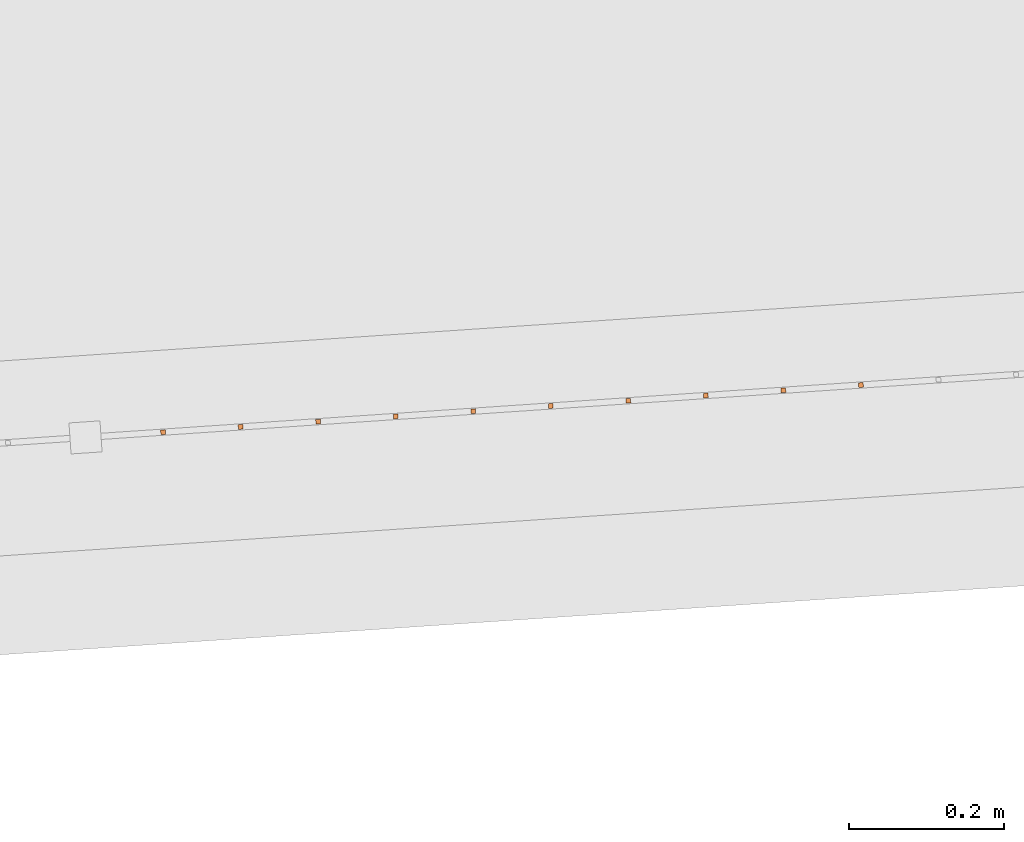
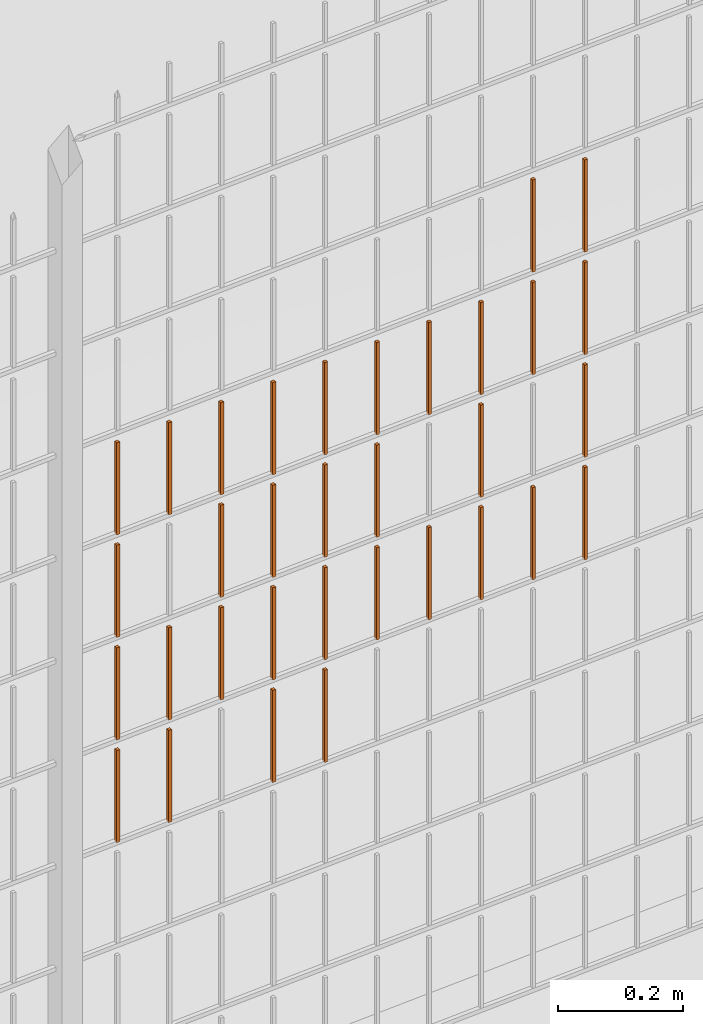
# One storey, part 338 of 1809: 33 proxies, 1 element without a shape of its own.
"""IFC2X3 building model written with IfcOpenShell, lengths in millimetres."""

from ifc_helpers import new_model, entity, si_unit, converted_unit, derived_unit, money_unit, direction, frame, origin_with_axes, place, context, subcontext, project, spatial, faceted_brep, source, transform, mapped, material, type_object, element, aggregate, save


model = new_model("IFC2X3")

# Units and contexts
model_context = context("Model", 3, precision=0.01, world=origin_with_axes(), true_north=direction((0.0, 1.0)))
body_context = subcontext(model_context, "Body", "Model", "MODEL_VIEW")
ifc_project = project(units=[si_unit("LENGTHUNIT", "METRE", prefix="MILLI"), si_unit("AREAUNIT", "SQUARE_METRE"), si_unit("VOLUMEUNIT", "CUBIC_METRE"), converted_unit("PLANEANGLEUNIT", "DEGREE", entity("IfcPlaneAngleMeasure", 0.0174532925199), si_unit("PLANEANGLEUNIT", "RADIAN"), dimensions=[0, 0, 0, 0, 0, 0, 0]), si_unit("SOLIDANGLEUNIT", "STERADIAN"), money_unit("EUR"), converted_unit("TIMEUNIT", "Year", entity("IfcTimeMeasure", 31556926.0), si_unit("TIMEUNIT", "SECOND"), dimensions=[0, 0, 1, 0, 0, 0, 0]), si_unit("MASSUNIT", "GRAM", prefix="KILO"), si_unit("THERMODYNAMICTEMPERATUREUNIT", "DEGREE_CELSIUS"), si_unit("LUMINOUSINTENSITYUNIT", "LUMEN"), si_unit("ENERGYUNIT", "JOULE", prefix="MEGA"), derived_unit("THERMALCONDUCTANCEUNIT", [(si_unit("POWERUNIT", "WATT"), 1), (si_unit("LENGTHUNIT", "METRE"), -1), (si_unit("THERMODYNAMICTEMPERATUREUNIT", "KELVIN"), -1)]), derived_unit("SPECIFICHEATCAPACITYUNIT", [(si_unit("ENERGYUNIT", "JOULE"), 1), (si_unit("MASSUNIT", "GRAM", prefix="KILO"), -1), (si_unit("THERMODYNAMICTEMPERATUREUNIT", "KELVIN"), -1)]), derived_unit("MASSDENSITYUNIT", [(si_unit("MASSUNIT", "GRAM", prefix="KILO"), 1), (si_unit("VOLUMEUNIT", "CUBIC_METRE"), -1)])], contexts=[model_context])

# Site, building, storey
site_placement = place(None, origin_with_axes())
site = spatial("IfcSite", under=ifc_project, at=site_placement, Name="Politse- ja Piirivalveameti ning Päästeameti ühishoone", CompositionType="ELEMENT")
building_placement = place(site_placement, origin_with_axes())
building = spatial("IfcBuilding", under=site, at=building_placement, Name="Politse- ja Piirivalveameti ning Päästeameti ühishoone", CompositionType="ELEMENT")
storey_placement = place(building_placement, origin_with_axes())
storey = spatial("IfcBuildingStorey", under=building, at=storey_placement, Name="Esimene korrus", CompositionType="ELEMENT", Elevation=0.0)

# Proxies
building_element_proxy_type_1 = type_object("IfcBuildingElementProxyType", Name="Railing Type", PredefinedType="NOTDEFINED")
proxy_1_placement = place(storey_placement, frame((89252.001212, -29183.4766571, 203.661247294), z_axis=(0.0, 0.0, 1.0), x_axis=(1.0, 0.0, 0.0)))
proxy_1 = element("IfcBuildingElementProxy", 1, at=proxy_1_placement, inside=storey, type_object=building_element_proxy_type_1, Name="PIIRDEAED")
ifc_material = material(Name="ET-03_Raud")
building_element_proxy_type_2 = type_object("IfcBuildingElementProxyType", Name="IfcBuildingElementProxy", PredefinedType="NOTDEFINED")
shared_shape_1 = source(origin_with_axes(), body_context, "Body", "Brep", [
    faceted_brep([(3.0, 3.0, -0.000752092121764), (-3.0, 3.0, -0.000752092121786), (-3.0, 3.0, 179.99926046), (3.0, 3.0, 179.99926046), (3.0, -3.0, 0.000752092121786), (-3.0, -3.0, 0.000752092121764), (-3.0, -3.0, 180.000764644), (3.0, -3.0, 180.000764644)], [[[0, 1, 2, 3]], [[0, 4, 5, 1]], [[1, 5, 6, 2]], [[3, 2, 6, 7]], [[4, 0, 3, 7]], [[5, 4, 7, 6]]]),
])
proxy_2_placement = place(proxy_1_placement, frame((-31355.2403445, -19415.7029165, 1419.35579737), z_axis=(0.0, 0.0, 1.0), x_axis=(1.0, 0.0, 0.0)))
proxy_2 = element("IfcBuildingElementProxy", 2, at=proxy_2_placement, type_object=building_element_proxy_type_2, material=ifc_material, Name="BALUSTER - 001", context=body_context, shape_type="MappedRepresentation", body=[
    mapped(shared_shape_1, transform((0.0, 0.0, 0.0), x_axis=(-0.0673926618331, 0.997726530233, 0.0), y_axis=(-0.997726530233, -0.0673926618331, 0.0), z_axis=(0.0, 0.0, 1.0))),
])
shared_shape_2 = source(origin_with_axes(), body_context, "Body", "Brep", [
    faceted_brep([(3.0, 3.0, -0.000752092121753), (-3.0, 3.0, -0.000752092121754), (-3.0, 3.0, 179.99926046), (3.0, 3.0, 179.99926046), (3.0, -3.0, 0.000752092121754), (-3.0, -3.0, 0.000752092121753), (-3.0, -3.0, 180.000764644), (3.0, -3.0, 180.000764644)], [[[0, 1, 2, 3]], [[0, 4, 5, 1]], [[1, 5, 6, 2]], [[3, 2, 6, 7]], [[4, 0, 3, 7]], [[5, 4, 7, 6]]]),
])
proxy_3_placement = place(proxy_1_placement, frame((-32153.4215687, -19469.6170459, 1219.15523947), z_axis=(0.0, 0.0, 1.0), x_axis=(1.0, 0.0, 0.0)))
proxy_3 = element("IfcBuildingElementProxy", 3, at=proxy_3_placement, type_object=building_element_proxy_type_2, material=ifc_material, Name="BALUSTER - 001", context=body_context, shape_type="MappedRepresentation", body=[
    mapped(shared_shape_2, transform((0.0, 0.0, 0.0), x_axis=(-0.0673926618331, 0.997726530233, 0.0), y_axis=(-0.997726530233, -0.0673926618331, 0.0), z_axis=(0.0, 0.0, 1.0))),
])
shared_shape_3 = source(origin_with_axes(), body_context, "Body", "Brep", [
    faceted_brep([(3.0, 3.0, -0.000752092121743), (-3.0, 3.0, -0.000752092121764), (-3.0, 3.0, 179.99926046), (3.0, 3.0, 179.99926046), (3.0, -3.0, 0.000752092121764), (-3.0, -3.0, 0.000752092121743), (-3.0, -3.0, 180.000764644), (3.0, -3.0, 180.000764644)], [[[0, 1, 2, 3]], [[0, 4, 5, 1]], [[1, 5, 6, 2]], [[3, 2, 6, 7]], [[4, 0, 3, 7]], [[5, 4, 7, 6]]]),
])
proxy_4_placement = place(proxy_1_placement, frame((-31754.3309566, -19442.6599812, 819.255518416), z_axis=(0.0, 0.0, 1.0), x_axis=(1.0, 0.0, 0.0)))
proxy_4 = element("IfcBuildingElementProxy", 4, at=proxy_4_placement, type_object=building_element_proxy_type_2, material=ifc_material, Name="BALUSTER - 001", context=body_context, shape_type="MappedRepresentation", body=[
    mapped(shared_shape_3, transform((0.0, 0.0, 0.0), x_axis=(-0.0673926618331, 0.997726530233, 0.0), y_axis=(-0.997726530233, -0.0673926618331, 0.0), z_axis=(0.0, 0.0, 1.0))),
])
shared_shape_4 = source(origin_with_axes(), body_context, "Body", "Brep", [
    faceted_brep([(3.0, 3.0, -0.000752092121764), (-3.0, 3.0, -0.000752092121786), (-3.0, 3.0, 179.99926046), (3.0, 3.0, 179.99926046), (3.0, -3.0, 0.000752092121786), (-3.0, -3.0, 0.000752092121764), (-3.0, -3.0, 180.000764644), (3.0, -3.0, 180.000764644)], [[[0, 1, 2, 3]], [[0, 4, 5, 1]], [[1, 5, 6, 2]], [[3, 2, 6, 7]], [[4, 0, 3, 7]], [[5, 4, 7, 6]]]),
])
proxy_5_placement = place(proxy_1_placement, frame((-31355.2403445, -19415.7029165, 1219.35579737), z_axis=(0.0, 0.0, 1.0), x_axis=(1.0, 0.0, 0.0)))
proxy_5 = element("IfcBuildingElementProxy", 5, at=proxy_5_placement, type_object=building_element_proxy_type_2, material=ifc_material, Name="BALUSTER - 001", context=body_context, shape_type="MappedRepresentation", body=[
    mapped(shared_shape_4, transform((0.0, 0.0, 0.0), x_axis=(-0.0673926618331, 0.997726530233, 0.0), y_axis=(-0.997726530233, -0.0673926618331, 0.0), z_axis=(0.0, 0.0, 1.0))),
])
shared_shape_5 = source(origin_with_axes(), body_context, "Body", "Brep", [
    faceted_brep([(3.0, 3.0, -0.000752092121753), (-3.0, 3.0, -0.000752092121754), (-3.0, 3.0, 179.99926046), (3.0, 3.0, 179.99926046), (3.0, -3.0, 0.000752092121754), (-3.0, -3.0, 0.000752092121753), (-3.0, -3.0, 180.000764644), (3.0, -3.0, 180.000764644)], [[[0, 1, 2, 3]], [[0, 4, 5, 1]], [[1, 5, 6, 2]], [[3, 2, 6, 7]], [[4, 0, 3, 7]], [[5, 4, 7, 6]]]),
])
proxy_6_placement = place(proxy_1_placement, frame((-31654.5583036, -19435.920715, 819.280588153), z_axis=(0.0, 0.0, 1.0), x_axis=(1.0, 0.0, 0.0)))
proxy_6 = element("IfcBuildingElementProxy", 6, at=proxy_6_placement, type_object=building_element_proxy_type_2, material=ifc_material, Name="BALUSTER - 001", context=body_context, shape_type="MappedRepresentation", body=[
    mapped(shared_shape_5, transform((0.0, 0.0, 0.0), x_axis=(-0.0673926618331, 0.997726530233, 0.0), y_axis=(-0.997726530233, -0.0673926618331, 0.0), z_axis=(0.0, 0.0, 1.0))),
])
shared_shape_6 = source(origin_with_axes(), body_context, "Body", "Brep", [
    faceted_brep([(3.0, 3.0, -0.000752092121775), (-3.0, 3.0, -0.000752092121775), (-3.0, 3.0, 179.99926046), (3.0, 3.0, 179.99926046), (3.0, -3.0, 0.000752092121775), (-3.0, -3.0, 0.000752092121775), (-3.0, -3.0, 180.000764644), (3.0, -3.0, 180.000764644)], [[[0, 1, 2, 3]], [[0, 4, 5, 1]], [[1, 5, 6, 2]], [[3, 2, 6, 7]], [[4, 0, 3, 7]], [[5, 4, 7, 6]]]),
])
proxy_7_placement = place(proxy_1_placement, frame((-31255.4676915, -19408.9636503, 1219.3808671), z_axis=(0.0, 0.0, 1.0), x_axis=(1.0, 0.0, 0.0)))
proxy_7 = element("IfcBuildingElementProxy", 7, at=proxy_7_placement, type_object=building_element_proxy_type_2, material=ifc_material, Name="BALUSTER - 001", context=body_context, shape_type="MappedRepresentation", body=[
    mapped(shared_shape_6, transform((0.0, 0.0, 0.0), x_axis=(-0.0673926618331, 0.997726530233, 0.0), y_axis=(-0.997726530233, -0.0673926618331, 0.0), z_axis=(0.0, 0.0, 1.0))),
])
shared_shape_7 = source(origin_with_axes(), body_context, "Body", "Brep", [
    faceted_brep([(3.0, 3.0, -0.000752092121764), (-3.0, 3.0, -0.000752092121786), (-3.0, 3.0, 179.99926046), (3.0, 3.0, 179.99926046), (3.0, -3.0, 0.000752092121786), (-3.0, -3.0, 0.000752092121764), (-3.0, -3.0, 180.000764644), (3.0, -3.0, 180.000764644)], [[[0, 1, 2, 3]], [[0, 4, 5, 1]], [[1, 5, 6, 2]], [[3, 2, 6, 7]], [[4, 0, 3, 7]], [[5, 4, 7, 6]]]),
])
proxy_8_placement = place(proxy_1_placement, frame((-31255.4676915, -19408.9636503, 819.380867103), z_axis=(0.0, 0.0, 1.0), x_axis=(1.0, 0.0, 0.0)))
proxy_8 = element("IfcBuildingElementProxy", 8, at=proxy_8_placement, type_object=building_element_proxy_type_2, material=ifc_material, Name="BALUSTER - 001", context=body_context, shape_type="MappedRepresentation", body=[
    mapped(shared_shape_7, transform((0.0, 0.0, 0.0), x_axis=(-0.0673926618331, 0.997726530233, 0.0), y_axis=(-0.997726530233, -0.0673926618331, 0.0), z_axis=(0.0, 0.0, 1.0))),
])
shared_shape_8 = source(origin_with_axes(), body_context, "Body", "Brep", [
    faceted_brep([(3.0, 3.0, -0.000752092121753), (-3.0, 3.0, -0.000752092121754), (-3.0, 3.0, 179.99926046), (3.0, 3.0, 179.99926046), (3.0, -3.0, 0.000752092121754), (-3.0, -3.0, 0.000752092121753), (-3.0, -3.0, 180.000764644), (3.0, -3.0, 180.000764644)], [[[0, 1, 2, 3]], [[0, 4, 5, 1]], [[1, 5, 6, 2]], [[3, 2, 6, 7]], [[4, 0, 3, 7]], [[5, 4, 7, 6]]]),
])
proxy_9_placement = place(proxy_1_placement, frame((-31554.7856505, -19429.1814488, 819.30565789), z_axis=(0.0, 0.0, 1.0), x_axis=(1.0, 0.0, 0.0)))
proxy_9 = element("IfcBuildingElementProxy", 9, at=proxy_9_placement, type_object=building_element_proxy_type_2, material=ifc_material, Name="BALUSTER - 001", context=body_context, shape_type="MappedRepresentation", body=[
    mapped(shared_shape_8, transform((0.0, 0.0, 0.0), x_axis=(-0.0673926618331, 0.997726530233, 0.0), y_axis=(-0.997726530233, -0.0673926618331, 0.0), z_axis=(0.0, 0.0, 1.0))),
])
proxy_10_placement = place(proxy_1_placement, frame((-31455.0129975, -19422.4421827, 1219.33072763), z_axis=(0.0, 0.0, 1.0), x_axis=(1.0, 0.0, 0.0)))
proxy_10 = element("IfcBuildingElementProxy", 10, at=proxy_10_placement, type_object=building_element_proxy_type_2, material=ifc_material, Name="BALUSTER - 001", context=body_context, shape_type="MappedRepresentation", body=[
    mapped(shared_shape_8, transform((0.0, 0.0, 0.0), x_axis=(-0.0673926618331, 0.997726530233, 0.0), y_axis=(-0.997726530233, -0.0673926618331, 0.0), z_axis=(0.0, 0.0, 1.0))),
])
shared_shape_9 = source(origin_with_axes(), body_context, "Body", "Brep", [
    faceted_brep([(3.0, 3.0, -0.000752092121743), (-3.0, 3.0, -0.000752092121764), (-3.0, 3.0, 179.99926046), (3.0, 3.0, 179.99926046), (3.0, -3.0, 0.000752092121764), (-3.0, -3.0, 0.000752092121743), (-3.0, -3.0, 180.000764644), (3.0, -3.0, 180.000764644)], [[[0, 1, 2, 3]], [[0, 4, 5, 1]], [[1, 5, 6, 2]], [[3, 2, 6, 7]], [[4, 0, 3, 7]], [[5, 4, 7, 6]]]),
])
proxy_11_placement = place(proxy_1_placement, frame((-31754.3309566, -19442.6599812, 619.255518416), z_axis=(0.0, 0.0, 1.0), x_axis=(1.0, 0.0, 0.0)))
proxy_11 = element("IfcBuildingElementProxy", 11, at=proxy_11_placement, type_object=building_element_proxy_type_2, material=ifc_material, Name="BALUSTER - 001", context=body_context, shape_type="MappedRepresentation", body=[
    mapped(shared_shape_9, transform((0.0, 0.0, 0.0), x_axis=(-0.0673926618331, 0.997726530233, 0.0), y_axis=(-0.997726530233, -0.0673926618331, 0.0), z_axis=(0.0, 0.0, 1.0))),
])
proxy_12_placement = place(proxy_1_placement, frame((-31554.7856505, -19429.1814488, 1219.30565789), z_axis=(0.0, 0.0, 1.0), x_axis=(1.0, 0.0, 0.0)))
proxy_12 = element("IfcBuildingElementProxy", 12, at=proxy_12_placement, type_object=building_element_proxy_type_2, material=ifc_material, Name="BALUSTER - 001", context=body_context, shape_type="MappedRepresentation", body=[
    mapped(shared_shape_9, transform((0.0, 0.0, 0.0), x_axis=(-0.0673926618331, 0.997726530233, 0.0), y_axis=(-0.997726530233, -0.0673926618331, 0.0), z_axis=(0.0, 0.0, 1.0))),
])
shared_shape_10 = source(origin_with_axes(), body_context, "Body", "Brep", [
    faceted_brep([(3.0, 3.0, -0.000752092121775), (-3.0, 3.0, -0.000752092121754), (-3.0, 3.0, 179.99926046), (3.0, 3.0, 179.99926046), (3.0, -3.0, 0.000752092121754), (-3.0, -3.0, 0.000752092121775), (-3.0, -3.0, 180.000764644), (3.0, -3.0, 180.000764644)], [[[0, 1, 2, 3]], [[0, 4, 5, 1]], [[1, 5, 6, 2]], [[3, 2, 6, 7]], [[4, 0, 3, 7]], [[5, 4, 7, 6]]]),
])
proxy_13_placement = place(proxy_1_placement, frame((-31754.3309566, -19442.6599812, 1219.25551842), z_axis=(0.0, 0.0, 1.0), x_axis=(1.0, 0.0, 0.0)))
proxy_13 = element("IfcBuildingElementProxy", 13, at=proxy_13_placement, type_object=building_element_proxy_type_2, material=ifc_material, Name="BALUSTER - 001", context=body_context, shape_type="MappedRepresentation", body=[
    mapped(shared_shape_10, transform((0.0, 0.0, 0.0), x_axis=(-0.0673926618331, 0.997726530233, 0.0), y_axis=(-0.997726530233, -0.0673926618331, 0.0), z_axis=(0.0, 0.0, 1.0))),
])
shared_shape_11 = source(origin_with_axes(), body_context, "Body", "Brep", [
    faceted_brep([(3.0, 3.0, -0.000752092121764), (-3.0, 3.0, -0.000752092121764), (-3.0, 3.0, 179.99926046), (3.0, 3.0, 179.99926046), (3.0, -3.0, 0.000752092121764), (-3.0, -3.0, 0.000752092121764), (-3.0, -3.0, 180.000764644), (3.0, -3.0, 180.000764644)], [[[0, 1, 2, 3]], [[0, 4, 5, 1]], [[1, 5, 6, 2]], [[3, 2, 6, 7]], [[4, 0, 3, 7]], [[5, 4, 7, 6]]]),
])
proxy_14_placement = place(proxy_1_placement, frame((-31854.1036096, -19449.3992474, 819.230448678), z_axis=(0.0, 0.0, 1.0), x_axis=(1.0, 0.0, 0.0)))
proxy_14 = element("IfcBuildingElementProxy", 14, at=proxy_14_placement, type_object=building_element_proxy_type_2, material=ifc_material, Name="BALUSTER - 001", context=body_context, shape_type="MappedRepresentation", body=[
    mapped(shared_shape_11, transform((0.0, 0.0, 0.0), x_axis=(-0.0673926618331, 0.997726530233, 0.0), y_axis=(-0.997726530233, -0.0673926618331, 0.0), z_axis=(0.0, 0.0, 1.0))),
])
shared_shape_12 = source(origin_with_axes(), body_context, "Body", "Brep", [
    faceted_brep([(3.0, 3.0, -0.000752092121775), (-3.0, 3.0, -0.000752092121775), (-3.0, 3.0, 179.99926046), (3.0, 3.0, 179.99926046), (3.0, -3.0, 0.000752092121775), (-3.0, -3.0, 0.000752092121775), (-3.0, -3.0, 180.000764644), (3.0, -3.0, 180.000764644)], [[[0, 1, 2, 3]], [[0, 4, 5, 1]], [[1, 5, 6, 2]], [[3, 2, 6, 7]], [[4, 0, 3, 7]], [[5, 4, 7, 6]]]),
])
proxy_15_placement = place(proxy_1_placement, frame((-31255.4676915, -19408.9636503, 1419.3808671), z_axis=(0.0, 0.0, 1.0), x_axis=(1.0, 0.0, 0.0)))
proxy_15 = element("IfcBuildingElementProxy", 15, at=proxy_15_placement, type_object=building_element_proxy_type_2, material=ifc_material, Name="BALUSTER - 001", context=body_context, shape_type="MappedRepresentation", body=[
    mapped(shared_shape_12, transform((0.0, 0.0, 0.0), x_axis=(-0.0673926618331, 0.997726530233, 0.0), y_axis=(-0.997726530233, -0.0673926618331, 0.0), z_axis=(0.0, 0.0, 1.0))),
])
shared_shape_13 = source(origin_with_axes(), body_context, "Body", "Brep", [
    faceted_brep([(3.0, 3.0, -0.000752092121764), (-3.0, 3.0, -0.000752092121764), (-3.0, 3.0, 179.99926046), (3.0, 3.0, 179.99926046), (3.0, -3.0, 0.000752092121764), (-3.0, -3.0, 0.000752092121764), (-3.0, -3.0, 180.000764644), (3.0, -3.0, 180.000764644)], [[[0, 1, 2, 3]], [[0, 4, 5, 1]], [[1, 5, 6, 2]], [[3, 2, 6, 7]], [[4, 0, 3, 7]], [[5, 4, 7, 6]]]),
])
proxy_16_placement = place(proxy_1_placement, frame((-31854.1036096, -19449.3992474, 619.230448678), z_axis=(0.0, 0.0, 1.0), x_axis=(1.0, 0.0, 0.0)))
proxy_16 = element("IfcBuildingElementProxy", 16, at=proxy_16_placement, type_object=building_element_proxy_type_2, material=ifc_material, Name="BALUSTER - 001", context=body_context, shape_type="MappedRepresentation", body=[
    mapped(shared_shape_13, transform((0.0, 0.0, 0.0), x_axis=(-0.0673926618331, 0.997726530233, 0.0), y_axis=(-0.997726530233, -0.0673926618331, 0.0), z_axis=(0.0, 0.0, 1.0))),
])
shared_shape_14 = source(origin_with_axes(), body_context, "Body", "Brep", [
    faceted_brep([(3.0, 3.0, -0.000752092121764), (-3.0, 3.0, -0.000752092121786), (-3.0, 3.0, 179.99926046), (3.0, 3.0, 179.99926046), (3.0, -3.0, 0.000752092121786), (-3.0, -3.0, 0.000752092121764), (-3.0, -3.0, 180.000764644), (3.0, -3.0, 180.000764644)], [[[0, 1, 2, 3]], [[0, 4, 5, 1]], [[1, 5, 6, 2]], [[3, 2, 6, 7]], [[4, 0, 3, 7]], [[5, 4, 7, 6]]]),
])
proxy_17_placement = place(proxy_1_placement, frame((-32153.4215687, -19469.6170459, 619.155239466), z_axis=(0.0, 0.0, 1.0), x_axis=(1.0, 0.0, 0.0)))
proxy_17 = element("IfcBuildingElementProxy", 17, at=proxy_17_placement, type_object=building_element_proxy_type_2, material=ifc_material, Name="BALUSTER - 001", context=body_context, shape_type="MappedRepresentation", body=[
    mapped(shared_shape_14, transform((0.0, 0.0, 0.0), x_axis=(-0.0673926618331, 0.997726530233, 0.0), y_axis=(-0.997726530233, -0.0673926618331, 0.0), z_axis=(0.0, 0.0, 1.0))),
])
shared_shape_15 = source(origin_with_axes(), body_context, "Body", "Brep", [
    faceted_brep([(3.0, 3.0, -0.000752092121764), (-3.0, 3.0, -0.000752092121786), (-3.0, 3.0, 179.99926046), (3.0, 3.0, 179.99926046), (3.0, -3.0, 0.000752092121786), (-3.0, -3.0, 0.000752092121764), (-3.0, -3.0, 180.000764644), (3.0, -3.0, 180.000764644)], [[[0, 1, 2, 3]], [[0, 4, 5, 1]], [[1, 5, 6, 2]], [[3, 2, 6, 7]], [[4, 0, 3, 7]], [[5, 4, 7, 6]]]),
])
proxy_18_placement = place(proxy_1_placement, frame((-32053.6489157, -19462.8777798, 1219.1803092), z_axis=(0.0, 0.0, 1.0), x_axis=(1.0, 0.0, 0.0)))
proxy_18 = element("IfcBuildingElementProxy", 18, at=proxy_18_placement, type_object=building_element_proxy_type_2, material=ifc_material, Name="BALUSTER - 001", context=body_context, shape_type="MappedRepresentation", body=[
    mapped(shared_shape_15, transform((0.0, 0.0, 0.0), x_axis=(-0.0673926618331, 0.997726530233, 0.0), y_axis=(-0.997726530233, -0.0673926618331, 0.0), z_axis=(0.0, 0.0, 1.0))),
])
shared_shape_16 = source(origin_with_axes(), body_context, "Body", "Brep", [
    faceted_brep([(3.0, 3.0, -0.000752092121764), (-3.0, 3.0, -0.000752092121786), (-3.0, 3.0, 179.99926046), (3.0, 3.0, 179.99926046), (3.0, -3.0, 0.000752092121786), (-3.0, -3.0, 0.000752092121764), (-3.0, -3.0, 180.000764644), (3.0, -3.0, 180.000764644)], [[[0, 1, 2, 3]], [[0, 4, 5, 1]], [[1, 5, 6, 2]], [[3, 2, 6, 7]], [[4, 0, 3, 7]], [[5, 4, 7, 6]]]),
])
proxy_19_placement = place(proxy_1_placement, frame((-32053.6489157, -19462.8777798, 819.180309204), z_axis=(0.0, 0.0, 1.0), x_axis=(1.0, 0.0, 0.0)))
proxy_19 = element("IfcBuildingElementProxy", 19, at=proxy_19_placement, type_object=building_element_proxy_type_2, material=ifc_material, Name="BALUSTER - 001", context=body_context, shape_type="MappedRepresentation", body=[
    mapped(shared_shape_16, transform((0.0, 0.0, 0.0), x_axis=(-0.0673926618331, 0.997726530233, 0.0), y_axis=(-0.997726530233, -0.0673926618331, 0.0), z_axis=(0.0, 0.0, 1.0))),
])
proxy_20_placement = place(proxy_1_placement, frame((-31654.5583036, -19435.920715, 1219.28058815), z_axis=(0.0, 0.0, 1.0), x_axis=(1.0, 0.0, 0.0)))
proxy_20 = element("IfcBuildingElementProxy", 20, at=proxy_20_placement, type_object=building_element_proxy_type_2, material=ifc_material, Name="BALUSTER - 001", context=body_context, shape_type="MappedRepresentation", body=[
    mapped(shared_shape_16, transform((0.0, 0.0, 0.0), x_axis=(-0.0673926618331, 0.997726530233, 0.0), y_axis=(-0.997726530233, -0.0673926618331, 0.0), z_axis=(0.0, 0.0, 1.0))),
])
shared_shape_17 = source(origin_with_axes(), body_context, "Body", "Brep", [
    faceted_brep([(3.0, 3.0, -0.000752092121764), (-3.0, 3.0, -0.000752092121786), (-3.0, 3.0, 179.99926046), (3.0, 3.0, 179.99926046), (3.0, -3.0, 0.000752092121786), (-3.0, -3.0, 0.000752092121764), (-3.0, -3.0, 180.000764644), (3.0, -3.0, 180.000764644)], [[[0, 1, 2, 3]], [[0, 4, 5, 1]], [[1, 5, 6, 2]], [[3, 2, 6, 7]], [[4, 0, 3, 7]], [[5, 4, 7, 6]]]),
])
proxy_21_placement = place(proxy_1_placement, frame((-32053.6489157, -19462.8777798, 619.180309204), z_axis=(0.0, 0.0, 1.0), x_axis=(1.0, 0.0, 0.0)))
proxy_21 = element("IfcBuildingElementProxy", 21, at=proxy_21_placement, type_object=building_element_proxy_type_2, material=ifc_material, Name="BALUSTER - 001", context=body_context, shape_type="MappedRepresentation", body=[
    mapped(shared_shape_17, transform((0.0, 0.0, 0.0), x_axis=(-0.0673926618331, 0.997726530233, 0.0), y_axis=(-0.997726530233, -0.0673926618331, 0.0), z_axis=(0.0, 0.0, 1.0))),
])
proxy_22_placement = place(proxy_1_placement, frame((-31953.8762626, -19456.1385136, 819.205378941), z_axis=(0.0, 0.0, 1.0), x_axis=(1.0, 0.0, 0.0)))
proxy_22 = element("IfcBuildingElementProxy", 22, at=proxy_22_placement, type_object=building_element_proxy_type_2, material=ifc_material, Name="BALUSTER - 001", context=body_context, shape_type="MappedRepresentation", body=[
    mapped(shared_shape_17, transform((0.0, 0.0, 0.0), x_axis=(-0.0673926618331, 0.997726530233, 0.0), y_axis=(-0.997726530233, -0.0673926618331, 0.0), z_axis=(0.0, 0.0, 1.0))),
])
shared_shape_18 = source(origin_with_axes(), body_context, "Body", "Brep", [
    faceted_brep([(3.0, 3.0, -0.000752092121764), (-3.0, 3.0, -0.000752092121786), (-3.0, 3.0, 179.99926046), (3.0, 3.0, 179.99926046), (3.0, -3.0, 0.000752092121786), (-3.0, -3.0, 0.000752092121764), (-3.0, -3.0, 180.000764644), (3.0, -3.0, 180.000764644)], [[[0, 1, 2, 3]], [[0, 4, 5, 1]], [[1, 5, 6, 2]], [[3, 2, 6, 7]], [[4, 0, 3, 7]], [[5, 4, 7, 6]]]),
])
proxy_23_placement = place(proxy_1_placement, frame((-32153.4215687, -19469.6170459, 819.155239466), z_axis=(0.0, 0.0, 1.0), x_axis=(1.0, 0.0, 0.0)))
proxy_23 = element("IfcBuildingElementProxy", 23, at=proxy_23_placement, type_object=building_element_proxy_type_2, material=ifc_material, Name="BALUSTER - 001", context=body_context, shape_type="MappedRepresentation", body=[
    mapped(shared_shape_18, transform((0.0, 0.0, 0.0), x_axis=(-0.0673926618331, 0.997726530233, 0.0), y_axis=(-0.997726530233, -0.0673926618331, 0.0), z_axis=(0.0, 0.0, 1.0))),
])
shared_shape_19 = source(origin_with_axes(), body_context, "Body", "Brep", [
    faceted_brep([(3.0, 3.0, -0.000752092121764), (-3.0, 3.0, -0.000752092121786), (-3.0, 3.0, 179.99926046), (3.0, 3.0, 179.99926046), (3.0, -3.0, 0.000752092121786), (-3.0, -3.0, 0.000752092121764), (-3.0, -3.0, 180.000764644), (3.0, -3.0, 180.000764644)], [[[0, 1, 2, 3]], [[0, 4, 5, 1]], [[1, 5, 6, 2]], [[3, 2, 6, 7]], [[4, 0, 3, 7]], [[5, 4, 7, 6]]]),
])
proxy_24_placement = place(proxy_1_placement, frame((-31854.1036096, -19449.3992474, 1219.23044868), z_axis=(0.0, 0.0, 1.0), x_axis=(1.0, 0.0, 0.0)))
proxy_24 = element("IfcBuildingElementProxy", 24, at=proxy_24_placement, type_object=building_element_proxy_type_2, material=ifc_material, Name="BALUSTER - 001", context=body_context, shape_type="MappedRepresentation", body=[
    mapped(shared_shape_19, transform((0.0, 0.0, 0.0), x_axis=(-0.0673926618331, 0.997726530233, 0.0), y_axis=(-0.997726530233, -0.0673926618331, 0.0), z_axis=(0.0, 0.0, 1.0))),
])
shared_shape_20 = source(origin_with_axes(), body_context, "Body", "Brep", [
    faceted_brep([(3.0, 3.0, -0.000752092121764), (-3.0, 3.0, -0.000752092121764), (-3.0, 3.0, 179.99926046), (3.0, 3.0, 179.99926046), (3.0, -3.0, 0.000752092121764), (-3.0, -3.0, 0.000752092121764), (-3.0, -3.0, 180.000764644), (3.0, -3.0, 180.000764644)], [[[0, 1, 2, 3]], [[0, 4, 5, 1]], [[1, 5, 6, 2]], [[3, 2, 6, 7]], [[4, 0, 3, 7]], [[5, 4, 7, 6]]]),
])
proxy_25_placement = place(proxy_1_placement, frame((-31455.0129975, -19422.4421827, 819.330727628), z_axis=(0.0, 0.0, 1.0), x_axis=(1.0, 0.0, 0.0)))
proxy_25 = element("IfcBuildingElementProxy", 25, at=proxy_25_placement, type_object=building_element_proxy_type_2, material=ifc_material, Name="BALUSTER - 001", context=body_context, shape_type="MappedRepresentation", body=[
    mapped(shared_shape_20, transform((0.0, 0.0, 0.0), x_axis=(-0.0673926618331, 0.997726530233, 0.0), y_axis=(-0.997726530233, -0.0673926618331, 0.0), z_axis=(0.0, 0.0, 1.0))),
])
shared_shape_21 = source(origin_with_axes(), body_context, "Body", "Brep", [
    faceted_brep([(3.0, 3.0, -0.000752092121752), (-3.0, 3.0, -0.000752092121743), (-3.00000000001, 2.99999999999, 179.99926046), (2.99999999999, 2.99999999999, 179.99926046), (3.0, -3.0, 0.000752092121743), (-3.0, -3.0, 0.000752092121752), (-3.00000000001, -3.00000000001, 180.000764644), (2.99999999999, -3.00000000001, 180.000764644)], [[[0, 1, 2, 3]], [[0, 4, 5, 1]], [[1, 5, 6, 2]], [[3, 2, 6, 7]], [[4, 0, 3, 7]], [[5, 4, 7, 6]]]),
])
proxy_26_placement = place(proxy_1_placement, frame((-31455.0129975, -19422.4421827, 1019.33072763), z_axis=(0.0, 0.0, 1.0), x_axis=(1.0, 0.0, 0.0)))
proxy_26 = element("IfcBuildingElementProxy", 26, at=proxy_26_placement, type_object=building_element_proxy_type_2, material=ifc_material, Name="BALUSTER - 001", context=body_context, shape_type="MappedRepresentation", body=[
    mapped(shared_shape_21, transform((0.0, 0.0, 0.0), x_axis=(-0.0673926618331, 0.997726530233, 0.0), y_axis=(-0.997726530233, -0.0673926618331, 0.0), z_axis=(0.0, 0.0, 1.0))),
])
shared_shape_22 = source(origin_with_axes(), body_context, "Body", "Brep", [
    faceted_brep([(3.0, 3.0, -0.000752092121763), (-3.0, 3.0, -0.000752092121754), (-3.00000000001, 2.99999999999, 179.99926046), (2.99999999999, 2.99999999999, 179.99926046), (3.0, -3.0, 0.000752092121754), (-3.0, -3.0, 0.000752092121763), (-3.00000000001, -3.00000000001, 180.000764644), (2.99999999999, -3.00000000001, 180.000764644)], [[[0, 1, 2, 3]], [[0, 4, 5, 1]], [[1, 5, 6, 2]], [[3, 2, 6, 7]], [[4, 0, 3, 7]], [[5, 4, 7, 6]]]),
])
proxy_27_placement = place(proxy_1_placement, frame((-31953.8762626, -19456.1385136, 1019.20537894), z_axis=(0.0, 0.0, 1.0), x_axis=(1.0, 0.0, 0.0)))
proxy_27 = element("IfcBuildingElementProxy", 27, at=proxy_27_placement, type_object=building_element_proxy_type_2, material=ifc_material, Name="BALUSTER - 001", context=body_context, shape_type="MappedRepresentation", body=[
    mapped(shared_shape_22, transform((0.0, 0.0, 0.0), x_axis=(-0.0673926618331, 0.997726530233, 0.0), y_axis=(-0.997726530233, -0.0673926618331, 0.0), z_axis=(0.0, 0.0, 1.0))),
])
shared_shape_23 = source(origin_with_axes(), body_context, "Body", "Brep", [
    faceted_brep([(3.0, 3.0, -0.000752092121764), (-3.0, 3.0, -0.000752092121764), (-3.0, 3.0, 179.99926046), (3.0, 3.0, 179.99926046), (3.0, -3.0, 0.000752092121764), (-3.0, -3.0, 0.000752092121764), (-3.0, -3.0, 180.000764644), (3.0, -3.0, 180.000764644)], [[[0, 1, 2, 3]], [[0, 4, 5, 1]], [[1, 5, 6, 2]], [[3, 2, 6, 7]], [[4, 0, 3, 7]], [[5, 4, 7, 6]]]),
])
proxy_28_placement = place(proxy_1_placement, frame((-31355.2403445, -19415.7029165, 819.355797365), z_axis=(0.0, 0.0, 1.0), x_axis=(1.0, 0.0, 0.0)))
proxy_28 = element("IfcBuildingElementProxy", 28, at=proxy_28_placement, type_object=building_element_proxy_type_2, material=ifc_material, Name="BALUSTER - 001", context=body_context, shape_type="MappedRepresentation", body=[
    mapped(shared_shape_23, transform((0.0, 0.0, 0.0), x_axis=(-0.0673926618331, 0.997726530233, 0.0), y_axis=(-0.997726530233, -0.0673926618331, 0.0), z_axis=(0.0, 0.0, 1.0))),
])
shared_shape_24 = source(origin_with_axes(), body_context, "Body", "Brep", [
    faceted_brep([(3.0, 3.0, -0.000752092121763), (-3.0, 3.0, -0.000752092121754), (-3.00000000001, 2.99999999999, 179.99926046), (2.99999999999, 2.99999999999, 179.99926046), (3.0, -3.0, 0.000752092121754), (-3.0, -3.0, 0.000752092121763), (-3.00000000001, -3.00000000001, 180.000764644), (2.99999999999, -3.00000000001, 180.000764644)], [[[0, 1, 2, 3]], [[0, 4, 5, 1]], [[1, 5, 6, 2]], [[3, 2, 6, 7]], [[4, 0, 3, 7]], [[5, 4, 7, 6]]]),
])
proxy_29_placement = place(proxy_1_placement, frame((-31854.1036096, -19449.3992474, 1019.23044868), z_axis=(0.0, 0.0, 1.0), x_axis=(1.0, 0.0, 0.0)))
proxy_29 = element("IfcBuildingElementProxy", 29, at=proxy_29_placement, type_object=building_element_proxy_type_2, material=ifc_material, Name="BALUSTER - 001", context=body_context, shape_type="MappedRepresentation", body=[
    mapped(shared_shape_24, transform((0.0, 0.0, 0.0), x_axis=(-0.0673926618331, 0.997726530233, 0.0), y_axis=(-0.997726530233, -0.0673926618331, 0.0), z_axis=(0.0, 0.0, 1.0))),
])
proxy_30_placement = place(proxy_1_placement, frame((-32153.4215687, -19469.6170459, 1019.15523947), z_axis=(0.0, 0.0, 1.0), x_axis=(1.0, 0.0, 0.0)))
proxy_30 = element("IfcBuildingElementProxy", 30, at=proxy_30_placement, type_object=building_element_proxy_type_2, material=ifc_material, Name="BALUSTER - 001", context=body_context, shape_type="MappedRepresentation", body=[
    mapped(shared_shape_24, transform((0.0, 0.0, 0.0), x_axis=(-0.0673926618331, 0.997726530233, 0.0), y_axis=(-0.997726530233, -0.0673926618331, 0.0), z_axis=(0.0, 0.0, 1.0))),
])
shared_shape_25 = source(origin_with_axes(), body_context, "Body", "Brep", [
    faceted_brep([(3.0, 3.0, -0.000752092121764), (-3.0, 3.0, -0.000752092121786), (-3.0, 3.0, 179.99926046), (3.0, 3.0, 179.99926046), (3.0, -3.0, 0.000752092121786), (-3.0, -3.0, 0.000752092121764), (-3.0, -3.0, 180.000764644), (3.0, -3.0, 180.000764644)], [[[0, 1, 2, 3]], [[0, 4, 5, 1]], [[1, 5, 6, 2]], [[3, 2, 6, 7]], [[4, 0, 3, 7]], [[5, 4, 7, 6]]]),
])
proxy_31_placement = place(proxy_1_placement, frame((-31953.8762626, -19456.1385136, 1219.20537894), z_axis=(0.0, 0.0, 1.0), x_axis=(1.0, 0.0, 0.0)))
proxy_31 = element("IfcBuildingElementProxy", 31, at=proxy_31_placement, type_object=building_element_proxy_type_2, material=ifc_material, Name="BALUSTER - 001", context=body_context, shape_type="MappedRepresentation", body=[
    mapped(shared_shape_25, transform((0.0, 0.0, 0.0), x_axis=(-0.0673926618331, 0.997726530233, 0.0), y_axis=(-0.997726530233, -0.0673926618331, 0.0), z_axis=(0.0, 0.0, 1.0))),
])
shared_shape_26 = source(origin_with_axes(), body_context, "Body", "Brep", [
    faceted_brep([(3.0, 3.0, -0.000752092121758), (-3.0, 3.0, -0.00075209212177), (-3.00000000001, 3.0, 179.99926046), (2.99999999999, 3.0, 179.99926046), (3.0, -3.0, 0.00075209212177), (-3.0, -3.0, 0.000752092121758), (-3.00000000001, -3.0, 180.000764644), (2.99999999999, -3.0, 180.000764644)], [[[0, 1, 2, 3]], [[0, 4, 5, 1]], [[1, 5, 6, 2]], [[3, 2, 6, 7]], [[4, 0, 3, 7]], [[5, 4, 7, 6]]]),
])
proxy_32_placement = place(proxy_1_placement, frame((-31255.4676915, -19408.9636503, 1019.3808671), z_axis=(0.0, 0.0, 1.0), x_axis=(1.0, 0.0, 0.0)))
proxy_32 = element("IfcBuildingElementProxy", 32, at=proxy_32_placement, type_object=building_element_proxy_type_2, material=ifc_material, Name="BALUSTER - 001", context=body_context, shape_type="MappedRepresentation", body=[
    mapped(shared_shape_26, transform((0.0, 0.0, 0.0), x_axis=(-0.0673926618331, 0.997726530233, 0.0), y_axis=(-0.997726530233, -0.0673926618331, 0.0), z_axis=(0.0, 0.0, 1.0))),
])
shared_shape_27 = source(origin_with_axes(), body_context, "Body", "Brep", [
    faceted_brep([(3.0, 3.0, -0.000752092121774), (-3.0, 3.0, -0.000752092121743), (-3.00000000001, 2.99999999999, 179.99926046), (2.99999999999, 2.99999999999, 179.99926046), (3.0, -3.0, 0.000752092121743), (-3.0, -3.0, 0.000752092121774), (-3.00000000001, -3.00000000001, 180.000764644), (2.99999999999, -3.00000000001, 180.000764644)], [[[0, 1, 2, 3]], [[0, 4, 5, 1]], [[1, 5, 6, 2]], [[3, 2, 6, 7]], [[4, 0, 3, 7]], [[5, 4, 7, 6]]]),
])
proxy_33_placement = place(proxy_1_placement, frame((-31654.5583036, -19435.920715, 1019.28058815), z_axis=(0.0, 0.0, 1.0), x_axis=(1.0, 0.0, 0.0)))
proxy_33 = element("IfcBuildingElementProxy", 33, at=proxy_33_placement, type_object=building_element_proxy_type_2, material=ifc_material, Name="BALUSTER - 001", context=body_context, shape_type="MappedRepresentation", body=[
    mapped(shared_shape_27, transform((0.0, 0.0, 0.0), x_axis=(-0.0673926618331, 0.997726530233, 0.0), y_axis=(-0.997726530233, -0.0673926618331, 0.0), z_axis=(0.0, 0.0, 1.0))),
])
proxy_34_placement = place(proxy_1_placement, frame((-31754.3309566, -19442.6599812, 1019.25551842), z_axis=(0.0, 0.0, 1.0), x_axis=(1.0, 0.0, 0.0)))
proxy_34 = element("IfcBuildingElementProxy", 34, at=proxy_34_placement, type_object=building_element_proxy_type_2, material=ifc_material, Name="BALUSTER - 001", context=body_context, shape_type="MappedRepresentation", body=[
    mapped(shared_shape_27, transform((0.0, 0.0, 0.0), x_axis=(-0.0673926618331, 0.997726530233, 0.0), y_axis=(-0.997726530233, -0.0673926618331, 0.0), z_axis=(0.0, 0.0, 1.0))),
])
aggregate(proxy_1, [proxy_11, proxy_16, proxy_21, proxy_17, proxy_8, proxy_28, proxy_25, proxy_9, proxy_6, proxy_4, proxy_14, proxy_22, proxy_19, proxy_23, proxy_32, proxy_26, proxy_33, proxy_34, proxy_29, proxy_27, proxy_30, proxy_7, proxy_5, proxy_10, proxy_12, proxy_20, proxy_13, proxy_24, proxy_31, proxy_18, proxy_3, proxy_15, proxy_2])

save(model, "model.ifc")
